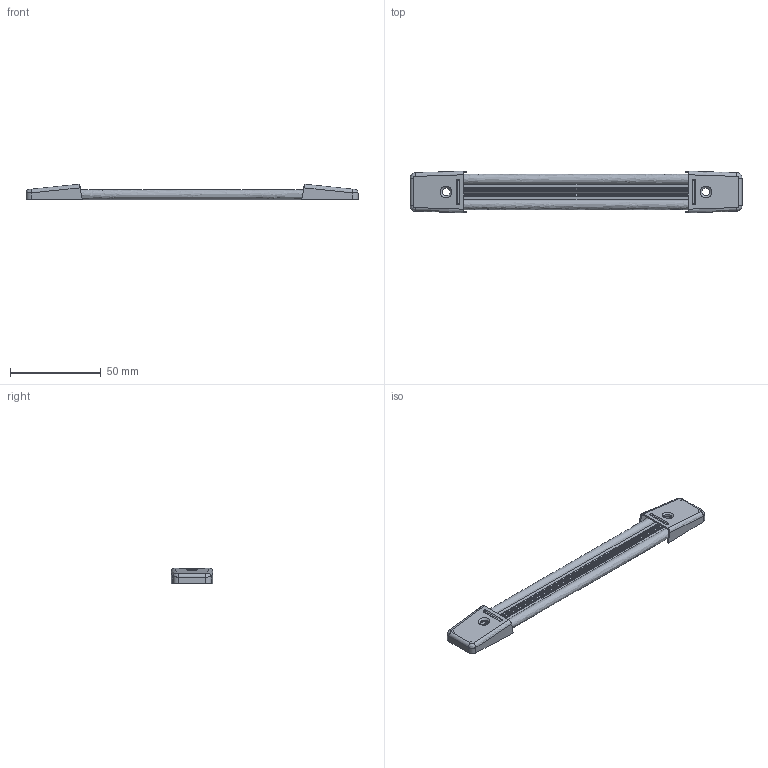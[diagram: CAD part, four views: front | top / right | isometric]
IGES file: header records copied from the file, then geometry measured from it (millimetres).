
Global section: file name: DR_A-007-2; native system: Autodesk Inventor 2015; preprocessor: unknown; author: Administrator; date: 20220721.110323; units: millimetre
Bounding box: 182.85 x 23 x 8.5 mm (x, y, z)
Volume: 11605.4 mm3; surface area: 24826 mm2
Topology: 4 solids, 4 shells, 157 faces, 429 edges, 282 vertices
Faces by surface type: bspline 157
